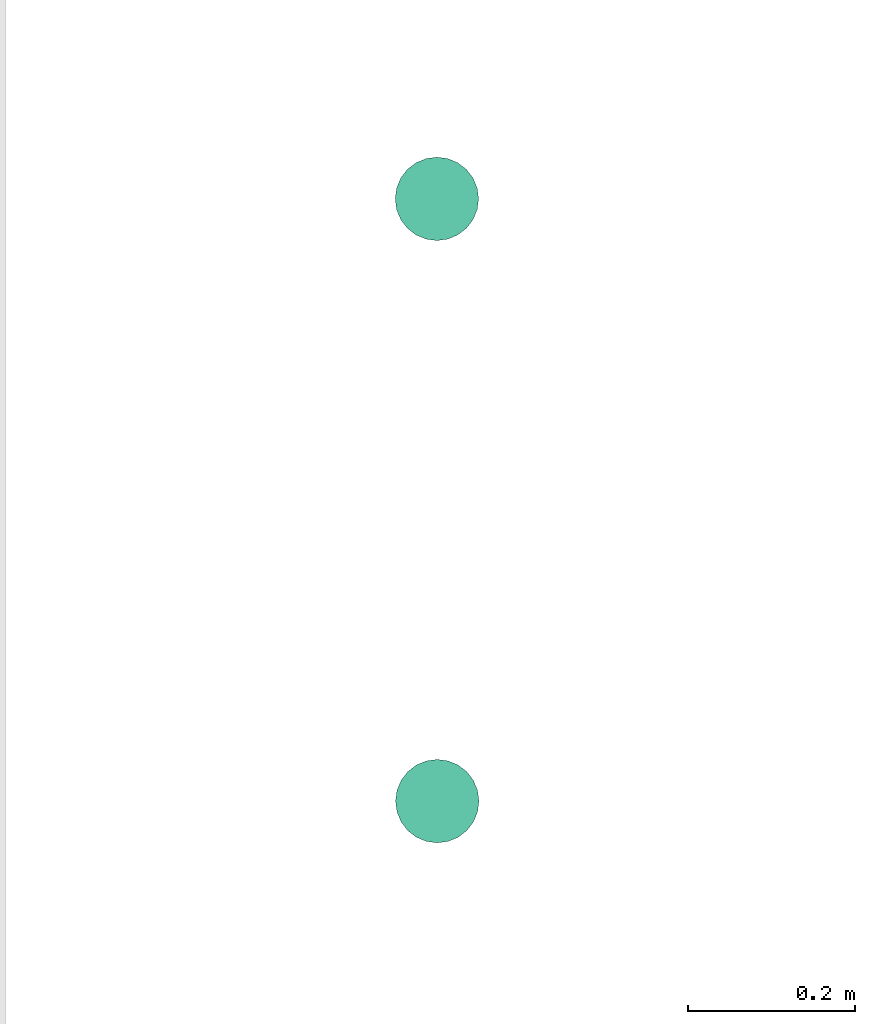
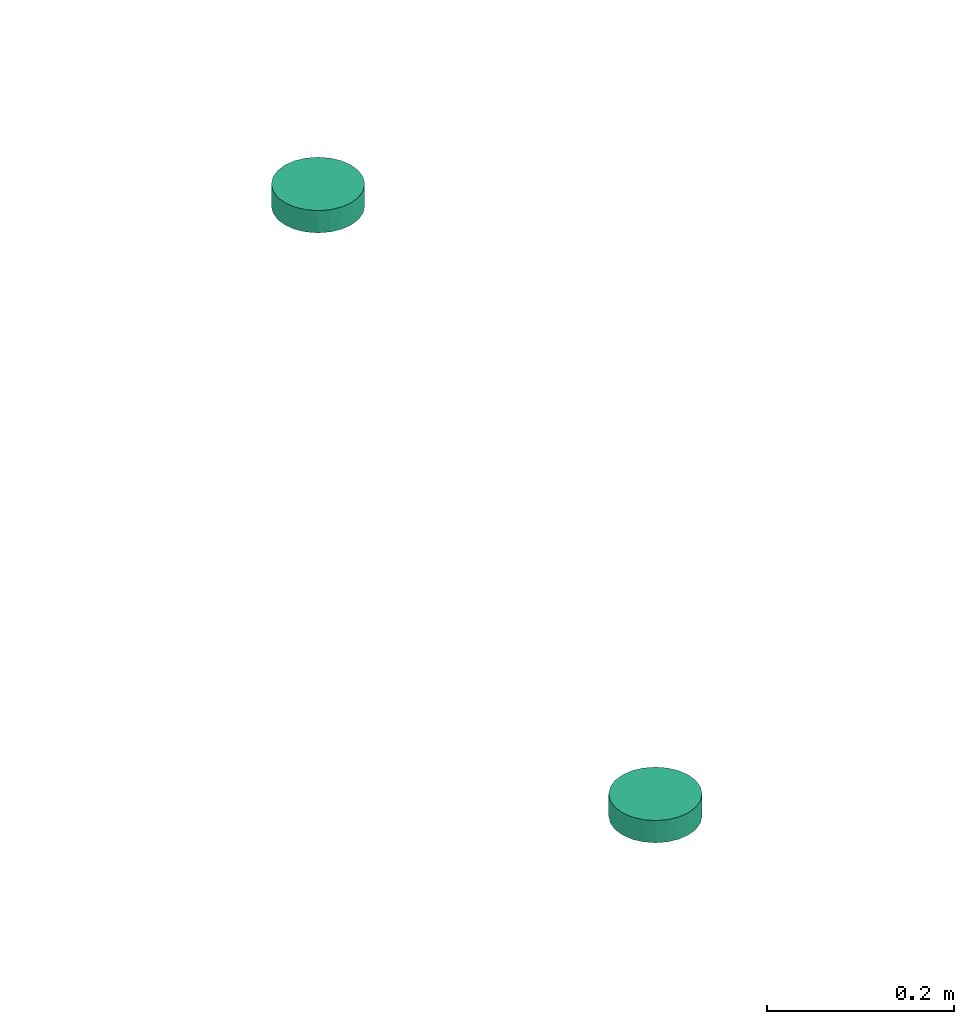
# One storey, part 10 of 51: 2 distribution control elements.
"""IFC2X3 building model written with IfcOpenShell, lengths in millimetres."""

from ifc_helpers import new_model, entity, si_unit, converted_unit, derived_unit, direction, frame, origin_with_axes, place, context, subcontext, project, spatial, open_shell, surface_model, source, transform, mapped, type_object, element, save


model = new_model("IFC2X3")

# Units and contexts
model_context = context("Model", 3, precision=0.01, world=frame((0.0, 4.29681676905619e-09, 0.0)), true_north=direction((4.01073788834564e-13, 1.0)))
plan_context = context("Plan", 3, precision=0.01, world=frame((0.0, 4.29681676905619e-09, 0.0)), true_north=direction((4.01073788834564e-13, 1.0)))
body_context = subcontext(model_context, "Body", "Model", "MODEL_VIEW")
ifc_project = project(units=[converted_unit("PLANEANGLEUNIT", "DEGREE", entity("IfcPositiveLengthMeasure", 0.0174532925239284), si_unit("PLANEANGLEUNIT", "RADIAN"), dimensions=[0, 0, 0, 0, 0, 0, 0]), si_unit("AREAUNIT", "SQUARE_METRE"), si_unit("LENGTHUNIT", "METRE", prefix="MILLI"), si_unit("MASSUNIT", "GRAM", prefix="KILO"), si_unit("POWERUNIT", "WATT"), si_unit("PRESSUREUNIT", "PASCAL"), si_unit("FORCEUNIT", "NEWTON", prefix="KILO"), si_unit("ELECTRICVOLTAGEUNIT", "VOLT"), si_unit("ELECTRICCURRENTUNIT", "AMPERE"), si_unit("THERMODYNAMICTEMPERATUREUNIT", "DEGREE_CELSIUS"), si_unit("TIMEUNIT", "SECOND"), si_unit("VOLUMEUNIT", "CUBIC_METRE"), derived_unit("LINEARVELOCITYUNIT", [(si_unit("LENGTHUNIT", "METRE"), 1), (si_unit("TIMEUNIT", "SECOND"), -1)]), derived_unit("VOLUMETRICFLOWRATEUNIT", [(si_unit("VOLUMEUNIT", "CUBIC_METRE"), 1), (si_unit("TIMEUNIT", "SECOND"), -1)]), derived_unit("THERMALTRANSMITTANCEUNIT", [(si_unit("POWERUNIT", "WATT"), 1), (si_unit("THERMODYNAMICTEMPERATUREUNIT", "KELVIN"), -1), (si_unit("AREAUNIT", "SQUARE_METRE"), -1)]), derived_unit("SOUNDPRESSUREUNIT", [(si_unit("PRESSUREUNIT", "PASCAL"), 1)])], contexts=[model_context, plan_context])

# Site, building, storey
site_placement = place(None, frame((0.0, -4.29681676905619e-09, 0.0), z_axis=(0.0, 0.0, 1.0), x_axis=(1.0, 0.0, 0.0)))
site = spatial("IfcSite", under=ifc_project, at=site_placement, Name="ENGM", CompositionType="ELEMENT")
building_placement = place(site_placement, frame((0.0, 4.29681676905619e-09, 0.0), z_axis=(0.0, 0.0, 1.0), x_axis=(1.0, 0.0, 0.0)))
building = spatial("IfcBuilding", under=site, at=building_placement, Name="TI", CompositionType="ELEMENT")
storey_placement = place(building_placement, frame((0.0, 0.0, 210900.0), z_axis=(0.0, 0.0, 1.0), x_axis=(1.0, 0.0, 0.0)))
storey = spatial("IfcBuildingStorey", under=building, at=storey_placement, Name="Nivå F", CompositionType="ELEMENT", Elevation=210900.0)

# Distribution control elements
alarm_type_1 = type_object("IfcAlarmType", Name="Brannalarm Røykdetektor", PredefinedType="NOTDEFINED")
shared_shape = source(origin_with_axes(), body_context, "Body", "SurfaceModel", [
    surface_model("IfcShellBasedSurfaceModel", [(-25.0, 43.30127, -28.9), (-35.35534, 35.35534, -28.9), (-18.0, 31.17691, -28.9), (-25.45584, 25.45584, -28.9), (-9.31749, 34.77333, -28.9), (-12.94095, 48.29629, -28.9), (0.0, 36.0, -28.9), (0.0, 50.0, -28.9), (-34.77333, 9.31749, -28.9), (-43.30127, 25.0, -28.9), (-48.29629, 12.94095, -28.9), (-36.0, 0.0, -28.9), (-50.0, 0.0, -28.9), (-31.17691, 18.0, -28.9), (9.31749, 34.77333, -28.9), (12.94095, 48.29629, -28.9), (18.0, 31.17691, -28.9), (35.35534, 35.35534, -28.9), (25.0, 43.30127, -28.9), (25.45584, 25.45584, -28.9), (31.17691, 18.0, -28.9), (34.77333, 9.31749, -28.9), (43.30127, 25.0, -28.9), (48.29629, 12.94095, -28.9), (36.0, 0.0, -28.9), (50.0, 0.0, -28.9), (-34.77333, -9.31749, -28.9), (-48.29629, -12.94095, -28.9), (-31.17691, -18.0, -28.9), (-43.30127, -25.0, -28.9), (-25.45584, -25.45584, -28.9), (-35.35534, -35.35534, -28.9), (-18.0, -31.17691, -28.9), (-25.0, -43.30127, -28.9), (-9.31749, -34.77333, -28.9), (-12.94095, -48.29629, -28.9), (0.0, -36.0, -28.9), (0.0, -50.0, -28.9), (43.30127, -25.0, -28.9), (31.17691, -18.0, -28.9), (35.35534, -35.35534, -28.9), (34.77333, -9.31749, -28.9), (48.29629, -12.94095, -28.9), (25.45584, -25.45584, -28.9), (9.31749, -34.77333, -28.9), (12.94095, -48.29629, -28.9), (18.0, -31.17691, -28.9), (25.0, -43.30127, -28.9), (-25.0, -43.30127, -29.1), (-35.35534, -35.35534, -29.1), (-18.0, -31.17691, -29.1), (-25.45584, -25.45584, -29.1), (-9.31749, -34.77333, -29.1), (-12.94095, -48.29629, -29.1), (0.0, -36.0, -29.1), (0.0, -50.0, -29.1), (-34.77333, -9.31749, -29.1), (-43.30127, -25.0, -29.1), (-48.29629, -12.94095, -29.1), (-36.0, 0.0, -29.1), (-50.0, 0.0, -29.1), (-31.17691, -18.0, -29.1), (9.31749, -34.77333, -29.1), (12.94095, -48.29629, -29.1), (18.0, -31.17691, -29.1), (35.35534, -35.35534, -29.1), (25.0, -43.30127, -29.1), (25.45584, -25.45584, -29.1), (31.17691, -18.0, -29.1), (34.77333, -9.31749, -29.1), (43.30127, -25.0, -29.1), (48.29629, -12.94095, -29.1), (36.0, 0.0, -29.1), (50.0, 0.0, -29.1), (-34.77333, 9.31749, -29.1), (-48.29629, 12.94095, -29.1), (-31.17691, 18.0, -29.1), (-43.30127, 25.0, -29.1), (-25.45584, 25.45584, -29.1), (-35.35534, 35.35534, -29.1), (-18.0, 31.17691, -29.1), (-25.0, 43.30127, -29.1), (-9.31749, 34.77333, -29.1), (-12.94095, 48.29629, -29.1), (0.0, 36.0, -29.1), (0.0, 50.0, -29.1), (43.30127, 25.0, -29.1), (31.17691, 18.0, -29.1), (35.35534, 35.35534, -29.1), (34.77333, 9.31749, -29.1), (48.29629, 12.94095, -29.1), (25.45584, 25.45584, -29.1), (9.31749, 34.77333, -29.1), (12.94095, 48.29629, -29.1), (18.0, 31.17691, -29.1), (25.0, 43.30127, -29.1), (6.47048, -24.14815, -44.9), (12.5, -21.65064, -44.9), (17.67767, -17.67767, -44.9), (24.14815, -6.47048, -44.9), (-24.14815, -6.47048, -44.9), (21.65064, -12.5, -44.9), (-21.65064, 12.5, -44.9), (0.0, -25.0, -44.9), (-12.5, -21.65064, -44.9), (-6.47048, -24.14815, -44.9), (-17.67767, -17.67767, -44.9), (-21.65064, -12.5, -44.9), (25.0, 0.0, -44.9), (24.14815, 6.47048, -44.9), (21.65064, 12.5, -44.9), (17.67767, 17.67767, -44.9), (12.5, 21.65064, -44.9), (6.47048, 24.14815, -44.9), (0.0, 25.0, -44.9), (-25.0, 0.0, -44.9), (-24.14815, 6.47048, -44.9), (-12.5, 21.65064, -44.9), (-17.67767, 17.67767, -44.9), (-6.47048, 24.14815, -44.9), (0.0, 25.0, -45.1), (6.47048, 24.14815, -45.1), (12.5, 21.65064, -45.1), (-21.65064, 12.5, -45.1), (17.67767, 17.67767, -45.1), (21.65064, 12.5, -45.1), (24.14815, 6.47048, -45.1), (-12.5, 21.65064, -45.1), (-17.67767, 17.67767, -45.1), (-6.47048, 24.14815, -45.1), (-25.0, 0.0, -45.1), (-24.14815, 6.47048, -45.1), (-24.14815, -6.47048, -45.1), (24.14815, -6.47048, -45.1), (6.47048, -24.14815, -45.1), (21.65064, -12.5, -45.1), (17.67767, -17.67767, -45.1), (12.5, -21.65064, -45.1), (-12.5, -21.65064, -45.1), (-17.67767, -17.67767, -45.1), (-21.65064, -12.5, -45.1), (0.0, -25.0, -45.1), (-6.47048, -24.14815, -45.1), (25.0, 0.0, -45.1), (-1.46739, 34.60682, -29.0), (0.0, 34.8, -29.0), (0.0, 35.0, -29.0), (-34.60682, 1.46739, -29.0), (-35.0, 0.0, -29.0), (-34.8, 0.0, -29.0), (-17.5, 30.31089, -29.0), (-18.5742, 29.23669, -29.0), (-17.4, 30.13768, -29.0), (-24.60732, -24.60732, -29.0), (-18.5742, -29.23669, -29.0), (-29.23669, -18.5742, -29.0), (34.8, 0.0, -29.0), (34.60682, -1.46739, -29.0), (35.0, 0.0, -29.0), (17.4, 30.13768, -29.0), (17.5, 30.31089, -29.0), (16.03261, 30.70407, -29.0), (30.13768, 17.4, -29.0), (30.31089, 17.5, -29.0), (29.23669, 18.5742, -29.0), (34.60682, 1.46739, -29.0), (33.61422, -9.0069, -29.0), (30.70407, -16.03261, -29.0), (-33.61422, -9.0069, -29.0), (-30.70407, -16.03261, -29.0), (-34.60682, -1.46739, -29.0), (-30.13768, -17.4, -29.0), (-30.31089, -17.5, -29.0), (-17.5, -30.31089, -29.0), (-17.4, -30.13768, -29.0), (-1.46739, -34.60682, -29.0), (0.0, -35.0, -29.0), (0.0, -34.8, -29.0), (-16.03261, -30.70407, -29.0), (-9.0069, -33.61422, -29.0), (1.46739, -34.60682, -29.0), (30.13768, -17.4, -29.0), (29.23669, -18.5742, -29.0), (30.31089, -17.5, -29.0), (24.60732, -24.60732, -29.0), (18.5742, -29.23669, -29.0), (9.0069, -33.61422, -29.0), (16.03261, -30.70407, -29.0), (-30.13768, 17.4, -29.0), (-30.31089, 17.5, -29.0), (-30.70407, 16.03261, -29.0), (17.4, -30.13768, -29.0), (17.5, -30.31089, -29.0), (-33.61422, 9.0069, -29.0), (-29.23669, 18.5742, -29.0), (-24.60732, 24.60732, -29.0), (-16.03261, 30.70407, -29.0), (-9.0069, 33.61422, -29.0), (1.46739, 34.60682, -29.0), (9.0069, 33.61422, -29.0), (18.5742, 29.23669, -29.0), (24.60732, 24.60732, -29.0), (30.70407, 16.03261, -29.0), (33.61422, 9.0069, -29.0), (23.00389, 18.55381, -38.25), (14.9, 25.80756, -38.25), (21.07178, 21.07178, -38.25), (29.66376, 1.03484, -38.25), (30.0, 0.0, -38.25), (29.8, 0.0, -38.25), (24.27051, 17.63356, -38.25), (24.68215, 16.36666, -38.25), (10.52665, 27.61906, -38.25), (28.78459, 7.71281, -38.25), (-10.52665, 27.61906, -38.25), (-23.00389, 18.55381, -38.25), (-14.9, 25.80756, -38.25), (8.32335, 28.5317, -38.25), (0.0, 29.8, -38.25), (7.71281, 28.78459, -38.25), (-8.32335, 28.5317, -38.25), (-24.68215, 16.36666, -38.25), (-28.78459, 7.71281, -38.25), (-25.80756, 14.9, -38.25), (-9.27051, 28.5317, -38.25), (-29.66376, 1.03484, -38.25), (-29.8, 0.0, -38.25), (-30.0, 0.0, -38.25), (-28.78459, -7.71281, -38.25), (-24.68215, -16.36666, -38.25), (-25.80756, -14.9, -38.25), (29.66376, -1.03484, -38.25), (-7.71281, 28.78459, -38.25), (25.80756, 14.9, -38.25), (14.9, -25.80756, -38.25), (10.52665, -27.61906, -38.25), (23.00389, -18.55381, -38.25), (28.78459, -7.71281, -38.25), (24.68215, -16.36666, -38.25), (0.0, -29.8, -38.25), (-7.71281, -28.78459, -38.25), (-8.32335, -28.5317, -38.25), (8.32335, -28.5317, -38.25), (9.27051, 28.5317, -38.25), (-29.66376, -1.03484, -38.25), (21.07178, -21.07178, -38.25), (-23.00389, -18.55381, -38.25), (-24.27051, -17.63356, -38.25), (-9.27051, -28.5317, -38.25), (-10.52665, -27.61906, -38.25), (-21.07178, -21.07178, -38.25), (-14.9, -25.80756, -38.25), (9.27051, -28.5317, -38.25), (7.71281, -28.78459, -38.25), (24.27051, -17.63356, -38.25), (25.80756, -14.9, -38.25), (-21.07178, 21.07178, -38.25), (-24.27051, 17.63356, -38.25), (33.28589, -6.39713, -29.0), (27.13526, -8.81678, -38.25), (-16.77051, -23.08263, -38.25), (-23.90544, -23.90544, -29.0), (-27.13526, -8.81678, -38.25), (-33.28589, -6.39713, -29.0), (16.77051, -23.08263, -38.25), (8.75, -32.65544, -29.0), (0.0, -28.5317, -38.25), (23.90544, -23.90544, -29.0), (-8.75, -32.65544, -29.0), (-33.28589, 6.39713, -29.0), (-27.13526, 8.81678, -38.25), (16.77051, 23.08263, -38.25), (23.90544, 23.90544, -29.0), (27.13526, 8.81678, -38.25), (33.28589, 6.39713, -29.0), (-16.77051, 23.08263, -38.25), (-8.75, 32.65544, -29.0), (0.0, 28.5317, -38.25), (-23.90544, 23.90544, -29.0), (8.75, 32.65544, -29.0), (12.4, 21.47743, -45.0), (17.53625, 17.53625, -45.0), (19.07577, 15.5299, -45.0), (20.22543, 14.69463, -45.0), (20.59905, 13.54472, -45.0), (24.66376, 1.03484, -45.0), (25.0, 0.0, -45.0), (24.8, 0.0, -45.0), (8.88673, 22.93267, -45.0), (23.95496, 6.41871, -45.0), (-8.88673, 22.93267, -45.0), (-19.07577, 15.5299, -45.0), (-12.4, 21.47743, -45.0), (6.84976, 23.77641, -45.0), (0.0, 24.8, -45.0), (6.41871, 23.95496, -45.0), (-7.72542, 23.77641, -45.0), (-6.84976, 23.77641, -45.0), (-21.47743, 12.4, -45.0), (-20.59905, 13.54472, -45.0), (-23.95496, 6.41871, -45.0), (-25.0, 0.0, -45.0), (-24.66376, 1.03484, -45.0), (-24.8, 0.0, -45.0), (-23.95496, -6.41871, -45.0), (-20.59905, -13.54472, -45.0), (-21.47743, -12.4, -45.0), (-6.41871, 23.95496, -45.0), (24.66376, -1.03484, -45.0), (21.47743, 12.4, -45.0), (12.4, -21.47743, -45.0), (8.88673, -22.93267, -45.0), (19.07577, -15.5299, -45.0), (23.95496, -6.41871, -45.0), (20.59905, -13.54472, -45.0), (0.0, -24.8, -45.0), (-6.41871, -23.95496, -45.0), (-6.84976, -23.77641, -45.0), (7.72542, -23.77641, -45.0), (6.84976, -23.77641, -45.0), (7.72542, 23.77641, -45.0), (-24.66376, -1.03484, -45.0), (17.53625, -17.53625, -45.0), (-20.22543, -14.69463, -45.0), (-19.07577, -15.5299, -45.0), (-8.88673, -22.93267, -45.0), (-7.72542, -23.77641, -45.0), (-17.53625, -17.53625, -45.0), (-12.4, -21.47743, -45.0), (6.41871, -23.95496, -45.0), (20.22543, -14.69463, -45.0), (21.47743, -12.4, -45.0), (-17.53625, 17.53625, -45.0), (-20.22543, 14.69463, -45.0), (-22.61271, -7.34732, -45.0), (-13.97542, -19.23552, -45.0), (0.0, -23.77641, -45.0), (21.83768, -9.73262, -45.0), (13.97542, -19.23552, -45.0), (23.41884, -4.86631, -45.0), (22.61271, 7.34732, -45.0), (13.97542, 19.23552, -45.0), (0.0, 23.77641, -45.0), (-21.83768, 9.73262, -45.0), (-13.97542, 19.23552, -45.0), (-23.41884, 4.86631, -45.0), (12.94095, -48.29629, 0.0), (25.0, -43.30127, 0.0), (35.35534, -35.35534, 0.0), (48.29629, -12.94095, 0.0), (-48.29629, -12.94095, 0.0), (43.30127, -25.0, 0.0), (-43.30127, 25.0, 0.0), (0.0, -50.0, 0.0), (-25.0, -43.30127, 0.0), (-12.94095, -48.29629, 0.0), (-35.35534, -35.35534, 0.0), (-43.30127, -25.0, 0.0), (50.0, 0.0, 0.0), (48.29629, 12.94095, 0.0), (43.30127, 25.0, 0.0), (35.35534, 35.35534, 0.0), (25.0, 43.30127, 0.0), (12.94095, 48.29629, 0.0), (0.0, 50.0, 0.0), (-50.0, 0.0, 0.0), (-48.29629, 12.94095, 0.0), (-25.0, 43.30127, 0.0), (-35.35534, 35.35534, 0.0), (-12.94095, 48.29629, 0.0), (0.0, 50.0, -29.0), (12.94095, 48.29629, -29.0), (25.0, 43.30127, -29.0), (-43.30127, 25.0, -29.0), (35.35534, 35.35534, -29.0), (43.30127, 25.0, -29.0), (48.29629, 12.94095, -29.0), (-25.0, 43.30127, -29.0), (-35.35534, 35.35534, -29.0), (-12.94095, 48.29629, -29.0), (-50.0, 0.0, -29.0), (-48.29629, 12.94095, -29.0), (-48.29629, -12.94095, -29.0), (48.29629, -12.94095, -29.0), (12.94095, -48.29629, -29.0), (43.30127, -25.0, -29.0), (35.35534, -35.35534, -29.0), (25.0, -43.30127, -29.0), (-25.0, -43.30127, -29.0), (-35.35534, -35.35534, -29.0), (-43.30127, -25.0, -29.0), (0.0, -50.0, -29.0), (-12.94095, -48.29629, -29.0), (50.0, 0.0, -29.0)], [open_shell([[[0, 1, 2]], [[2, 1, 3]], [[0, 2, 4]], [[5, 4, 6]], [[4, 5, 0]], [[5, 6, 7]], [[8, 9, 10]], [[11, 10, 12]], [[8, 10, 11]], [[13, 3, 9]], [[8, 13, 9]], [[9, 3, 1]], [[7, 14, 15]], [[14, 7, 6]], [[15, 14, 16]], [[17, 18, 19]], [[16, 18, 15]], [[19, 18, 16]], [[20, 21, 22]], [[20, 22, 17]], [[21, 23, 22]], [[23, 21, 24]], [[23, 24, 25]], [[20, 17, 19]], [[26, 12, 27]], [[28, 27, 29]], [[28, 26, 27]], [[30, 28, 29]], [[29, 31, 30]], [[32, 31, 33]], [[31, 32, 30]], [[32, 33, 34]], [[34, 35, 36]], [[35, 34, 33]], [[36, 35, 37]], [[38, 39, 40]], [[41, 39, 42]], [[41, 42, 25]], [[42, 39, 38]], [[39, 43, 40]], [[25, 24, 41]], [[44, 37, 45]], [[37, 44, 36]], [[44, 45, 46]], [[47, 40, 43]], [[47, 46, 45]], [[47, 43, 46]], [[26, 11, 12]], [[48, 49, 50]], [[50, 49, 51]], [[48, 50, 52]], [[53, 52, 54]], [[52, 53, 48]], [[53, 54, 55]], [[56, 57, 58]], [[59, 58, 60]], [[56, 58, 59]], [[61, 51, 57]], [[56, 61, 57]], [[57, 51, 49]], [[55, 62, 63]], [[62, 55, 54]], [[63, 62, 64]], [[65, 66, 67]], [[64, 66, 63]], [[67, 66, 64]], [[68, 69, 70]], [[68, 70, 65]], [[69, 71, 70]], [[71, 69, 72]], [[71, 72, 73]], [[68, 65, 67]], [[74, 60, 75]], [[76, 75, 77]], [[76, 74, 75]], [[78, 76, 77]], [[77, 79, 78]], [[80, 79, 81]], [[79, 80, 78]], [[80, 81, 82]], [[82, 83, 84]], [[83, 82, 81]], [[84, 83, 85]], [[86, 87, 88]], [[89, 87, 90]], [[89, 90, 73]], [[90, 87, 86]], [[87, 91, 88]], [[73, 72, 89]], [[92, 85, 93]], [[85, 92, 84]], [[92, 93, 94]], [[95, 88, 91]], [[95, 94, 93]], [[95, 91, 94]], [[74, 59, 60]], [[11, 59, 8]], [[8, 74, 13]], [[2, 3, 78]], [[76, 3, 13]], [[4, 2, 80]], [[74, 76, 13]], [[8, 59, 74]], [[84, 6, 82]], [[4, 80, 82]], [[80, 2, 78]], [[3, 76, 78]], [[4, 82, 6]], [[14, 92, 16]], [[16, 94, 19]], [[21, 20, 87]], [[91, 20, 19]], [[24, 21, 89]], [[92, 94, 16]], [[14, 84, 92]], [[21, 87, 89]], [[87, 20, 91]], [[19, 94, 91]], [[24, 89, 72]], [[6, 84, 14]], [[24, 72, 41]], [[41, 69, 39]], [[46, 43, 67]], [[68, 43, 39]], [[44, 46, 64]], [[69, 68, 39]], [[41, 72, 69]], [[54, 36, 62]], [[44, 64, 62]], [[64, 46, 67]], [[43, 68, 67]], [[44, 62, 36]], [[34, 52, 32]], [[32, 50, 30]], [[26, 28, 61]], [[51, 28, 30]], [[11, 26, 56]], [[52, 50, 32]], [[34, 54, 52]], [[26, 61, 56]], [[61, 28, 51]], [[30, 50, 51]], [[11, 56, 59]], [[36, 54, 34]], [[58, 27, 60]], [[57, 29, 58]], [[33, 49, 48]], [[57, 49, 31]], [[35, 48, 53]], [[58, 29, 27]], [[27, 12, 60]], [[35, 33, 48]], [[31, 49, 33]], [[31, 29, 57]], [[37, 35, 53]], [[53, 55, 37]], [[63, 45, 55]], [[66, 47, 63]], [[38, 65, 70]], [[66, 65, 40]], [[42, 70, 71]], [[66, 40, 47]], [[47, 45, 63]], [[25, 42, 71]], [[38, 70, 42]], [[38, 40, 65]], [[73, 25, 71]], [[55, 45, 37]], [[90, 23, 73]], [[86, 22, 90]], [[18, 88, 95]], [[86, 88, 17]], [[15, 95, 93]], [[90, 22, 23]], [[23, 25, 73]], [[15, 18, 95]], [[17, 88, 18]], [[17, 22, 86]], [[7, 15, 93]], [[93, 85, 7]], [[83, 5, 85]], [[81, 0, 83]], [[9, 79, 77]], [[81, 79, 1]], [[10, 77, 75]], [[81, 1, 0]], [[0, 5, 83]], [[12, 10, 75]], [[9, 77, 10]], [[9, 1, 79]], [[60, 12, 75]], [[85, 5, 7]], [[96, 97, 98]], [[96, 98, 99]], [[96, 99, 100]], [[99, 98, 101]], [[102, 100, 99]], [[103, 104, 105]], [[103, 96, 104]], [[106, 100, 107]], [[106, 104, 96]], [[100, 106, 96]], [[99, 108, 102]], [[109, 110, 111]], [[109, 111, 112]], [[112, 113, 114]], [[109, 112, 102]], [[102, 112, 114]], [[115, 102, 116]], [[100, 102, 115]], [[102, 117, 118]], [[117, 102, 119]], [[114, 119, 102]], [[102, 108, 109]], [[120, 121, 122]], [[123, 120, 122]], [[124, 125, 126]], [[124, 126, 122]], [[123, 122, 126]], [[127, 123, 128]], [[123, 127, 129]], [[123, 130, 131]], [[123, 129, 120]], [[123, 132, 130]], [[123, 126, 133]], [[132, 123, 133]], [[134, 133, 135]], [[136, 137, 134]], [[136, 134, 135]], [[138, 133, 134]], [[132, 139, 140]], [[132, 133, 139]], [[138, 141, 142]], [[139, 133, 138]], [[134, 141, 138]], [[133, 126, 143]], [[132, 100, 130]], [[140, 107, 132]], [[104, 139, 138]], [[140, 139, 106]], [[105, 138, 142]], [[132, 107, 100]], [[100, 115, 130]], [[105, 104, 138]], [[106, 139, 104]], [[106, 107, 140]], [[103, 105, 142]], [[142, 141, 103]], [[134, 96, 141]], [[137, 97, 134]], [[101, 136, 135]], [[137, 136, 98]], [[99, 135, 133]], [[137, 98, 97]], [[97, 96, 134]], [[108, 99, 133]], [[101, 135, 99]], [[101, 98, 136]], [[143, 108, 133]], [[141, 96, 103]], [[126, 109, 143]], [[125, 110, 126]], [[112, 124, 122]], [[125, 124, 111]], [[113, 122, 121]], [[126, 110, 109]], [[109, 108, 143]], [[113, 112, 122]], [[111, 124, 112]], [[111, 110, 125]], [[114, 113, 121]], [[121, 120, 114]], [[129, 119, 120]], [[127, 117, 129]], [[102, 128, 123]], [[127, 128, 118]], [[116, 123, 131]], [[127, 118, 117]], [[117, 119, 129]], [[115, 116, 131]], [[102, 123, 116]], [[102, 118, 128]], [[130, 115, 131]], [[120, 119, 114]], [[144, 145, 146]], [[147, 148, 149]], [[150, 151, 152]], [[153, 154, 155]], [[156, 157, 158]], [[159, 160, 161]], [[162, 163, 164]], [[156, 158, 165]], [[166, 157, 167]], [[168, 169, 170]], [[170, 149, 148]], [[171, 169, 172]], [[173, 174, 154]], [[175, 176, 177]], [[174, 173, 178]], [[155, 171, 172]], [[179, 175, 178]], [[180, 177, 176]], [[181, 182, 183]], [[181, 183, 167]], [[184, 182, 185]], [[186, 187, 180]], [[188, 189, 190]], [[191, 192, 185]], [[191, 187, 192]], [[193, 147, 190]], [[188, 194, 189]], [[195, 194, 151]], [[152, 196, 150]], [[197, 196, 144]], [[145, 198, 146]], [[199, 198, 161]], [[159, 200, 160]], [[201, 200, 164]], [[162, 202, 163]], [[203, 202, 165]], [[204, 205, 206]], [[207, 208, 209]], [[204, 210, 211]], [[205, 204, 212]], [[213, 207, 211]], [[214, 215, 216]], [[217, 218, 219]], [[218, 217, 220]], [[221, 222, 223]], [[220, 214, 224]], [[225, 226, 227]], [[228, 229, 230]], [[209, 208, 231]], [[218, 220, 232]], [[213, 211, 233]], [[234, 235, 236]], [[237, 238, 231]], [[239, 240, 241]], [[241, 242, 239]], [[243, 212, 217]], [[227, 226, 244]], [[234, 236, 245]], [[229, 246, 247]], [[241, 248, 249]], [[250, 246, 251]], [[228, 244, 229]], [[235, 252, 242]], [[239, 242, 253]], [[236, 238, 254]], [[238, 237, 255]], [[251, 246, 249]], [[216, 215, 256]], [[215, 221, 257]], [[222, 221, 225]], [[208, 158, 258]], [[183, 259, 258]], [[260, 261, 247]], [[172, 262, 247]], [[263, 227, 262]], [[192, 252, 264]], [[260, 248, 173]], [[261, 260, 173]], [[252, 265, 266]], [[227, 263, 148]], [[172, 263, 262]], [[258, 259, 208]], [[254, 267, 264]], [[268, 173, 248]], [[252, 192, 265]], [[192, 264, 267]], [[267, 254, 183]], [[259, 183, 254]], [[268, 266, 176]], [[265, 176, 266]], [[248, 266, 268]], [[172, 247, 261]], [[227, 148, 269]], [[189, 270, 269]], [[271, 272, 210]], [[163, 273, 210]], [[274, 208, 273]], [[150, 224, 275]], [[271, 243, 160]], [[272, 271, 160]], [[224, 276, 277]], [[208, 274, 158]], [[163, 274, 273]], [[269, 270, 227]], [[257, 278, 275]], [[279, 160, 243]], [[224, 150, 276]], [[150, 275, 278]], [[278, 257, 189]], [[270, 189, 257]], [[279, 277, 146]], [[276, 146, 277]], [[243, 277, 279]], [[163, 210, 272]], [[171, 230, 228]], [[168, 228, 226]], [[179, 240, 251]], [[174, 251, 250]], [[153, 250, 230]], [[168, 171, 228]], [[226, 149, 168]], [[251, 174, 179]], [[174, 250, 153]], [[230, 171, 153]], [[240, 179, 177]], [[177, 239, 240]], [[184, 245, 234]], [[191, 234, 253]], [[156, 209, 237]], [[166, 237, 255]], [[181, 255, 245]], [[239, 186, 253]], [[186, 191, 253]], [[177, 186, 239]], [[184, 181, 245]], [[191, 184, 234]], [[181, 166, 255]], [[166, 156, 237]], [[162, 233, 213]], [[203, 213, 209]], [[199, 219, 205]], [[159, 205, 206]], [[201, 206, 233]], [[203, 162, 213]], [[209, 156, 203]], [[205, 159, 199]], [[159, 206, 201]], [[233, 162, 201]], [[219, 199, 145]], [[145, 218, 219]], [[195, 256, 216]], [[152, 216, 232]], [[149, 226, 222]], [[193, 222, 223]], [[188, 223, 256]], [[218, 197, 232]], [[197, 152, 232]], [[145, 197, 218]], [[195, 188, 256]], [[152, 195, 216]], [[188, 193, 223]], [[193, 149, 222]], [[215, 216, 256]], [[221, 222, 225]], [[225, 227, 226]], [[257, 221, 215]], [[216, 215, 214]], [[212, 204, 205]], [[220, 218, 232]], [[218, 220, 217]], [[217, 212, 243]], [[233, 211, 213]], [[208, 207, 209]], [[237, 238, 255]], [[252, 235, 242]], [[218, 217, 219]], [[227, 244, 226]], [[222, 221, 223]], [[228, 229, 244]], [[239, 253, 242]], [[246, 251, 249]], [[249, 248, 241]], [[231, 238, 237]], [[208, 209, 231]], [[251, 246, 250]], [[254, 238, 236]], [[236, 234, 245]], [[214, 220, 224]], [[242, 241, 239]], [[239, 241, 240]], [[246, 229, 247]], [[230, 229, 228]], [[234, 236, 235]], [[205, 204, 206]], [[204, 211, 210]], [[213, 211, 207]], [[280, 281, 282]], [[282, 283, 284]], [[285, 286, 287]], [[280, 282, 288]], [[289, 285, 284]], [[290, 291, 292]], [[293, 294, 295]], [[290, 296, 297]], [[294, 293, 297]], [[298, 299, 300]], [[301, 302, 303]], [[304, 305, 306]], [[294, 297, 307]], [[308, 287, 286]], [[289, 284, 309]], [[310, 311, 312]], [[313, 314, 308]], [[315, 316, 317]], [[311, 318, 319]], [[293, 320, 288]], [[301, 303, 321]], [[310, 312, 322]], [[323, 305, 324]], [[325, 317, 326]], [[327, 324, 328]], [[304, 321, 305]], [[317, 319, 315]], [[315, 319, 329]], [[312, 314, 330]], [[331, 314, 313]], [[328, 324, 325]], [[292, 291, 332]], [[291, 299, 333]], [[300, 299, 302]], [[262, 301, 334]], [[334, 323, 247]], [[248, 335, 326]], [[301, 262, 227]], [[334, 247, 262]], [[260, 323, 335]], [[266, 248, 326]], [[336, 252, 266]], [[252, 336, 318]], [[323, 260, 247]], [[248, 260, 335]], [[254, 337, 259]], [[318, 264, 252]], [[338, 254, 264]], [[339, 286, 208]], [[264, 318, 338]], [[259, 339, 208]], [[338, 330, 254]], [[266, 326, 336]], [[259, 337, 339]], [[337, 254, 330]], [[273, 286, 340]], [[340, 283, 210]], [[243, 341, 320]], [[286, 273, 208]], [[340, 210, 273]], [[271, 283, 341]], [[277, 243, 320]], [[342, 224, 277]], [[224, 342, 296]], [[283, 271, 210]], [[243, 271, 341]], [[257, 343, 270]], [[296, 275, 224]], [[344, 257, 275]], [[345, 301, 227]], [[275, 296, 344]], [[270, 345, 227]], [[344, 333, 257]], [[277, 320, 342]], [[270, 343, 345]], [[343, 257, 333]], [[230, 306, 304]], [[228, 304, 303]], [[240, 316, 328]], [[251, 328, 327]], [[250, 327, 306]], [[228, 230, 304]], [[303, 226, 228]], [[328, 251, 240]], [[251, 327, 250]], [[306, 230, 250]], [[316, 240, 239]], [[239, 315, 316]], [[245, 322, 310]], [[234, 310, 329]], [[209, 287, 313]], [[237, 313, 331]], [[255, 331, 322]], [[315, 253, 329]], [[253, 234, 329]], [[239, 253, 315]], [[255, 322, 245]], [[234, 245, 310]], [[331, 255, 237]], [[237, 209, 313]], [[233, 309, 289]], [[213, 289, 287]], [[219, 295, 280]], [[205, 280, 281]], [[206, 281, 309]], [[213, 233, 289]], [[287, 209, 213]], [[280, 205, 219]], [[205, 281, 206]], [[309, 233, 206]], [[295, 219, 218]], [[218, 294, 295]], [[256, 332, 292]], [[216, 292, 307]], [[226, 303, 300]], [[222, 300, 298]], [[223, 298, 332]], [[294, 232, 307]], [[232, 216, 307]], [[218, 232, 294]], [[223, 332, 256]], [[216, 256, 292]], [[298, 223, 222]], [[222, 226, 300]], [[346, 347, 348]], [[346, 348, 349]], [[346, 349, 350]], [[349, 348, 351]], [[352, 350, 349]], [[353, 354, 355]], [[353, 346, 354]], [[356, 350, 357]], [[356, 354, 346]], [[350, 356, 346]], [[349, 358, 352]], [[359, 360, 361]], [[359, 361, 362]], [[362, 363, 364]], [[359, 362, 352]], [[352, 362, 364]], [[365, 352, 366]], [[350, 352, 365]], [[352, 367, 368]], [[367, 352, 369]], [[364, 369, 352]], [[352, 358, 359]], [[370, 371, 372]], [[373, 370, 372]], [[374, 375, 376]], [[374, 376, 372]], [[373, 372, 376]], [[377, 373, 378]], [[373, 377, 379]], [[373, 380, 381]], [[373, 379, 370]], [[373, 382, 380]], [[373, 376, 383]], [[382, 373, 383]], [[384, 383, 385]], [[386, 387, 384]], [[386, 384, 385]], [[388, 383, 384]], [[382, 389, 390]], [[382, 383, 389]], [[388, 391, 392]], [[389, 383, 388]], [[384, 391, 388]], [[383, 376, 393]], [[382, 350, 380]], [[390, 357, 382]], [[354, 389, 388]], [[390, 389, 356]], [[355, 388, 392]], [[382, 357, 350]], [[350, 365, 380]], [[355, 354, 388]], [[356, 389, 354]], [[356, 357, 390]], [[353, 355, 392]], [[392, 391, 353]], [[384, 346, 391]], [[387, 347, 384]], [[351, 386, 385]], [[387, 386, 348]], [[349, 385, 383]], [[387, 348, 347]], [[347, 346, 384]], [[358, 349, 383]], [[351, 385, 349]], [[351, 348, 386]], [[393, 358, 383]], [[391, 346, 353]], [[376, 359, 393]], [[375, 360, 376]], [[362, 374, 372]], [[375, 374, 361]], [[363, 372, 371]], [[376, 360, 359]], [[359, 358, 393]], [[363, 362, 372]], [[361, 374, 362]], [[361, 360, 375]], [[364, 363, 371]], [[371, 370, 364]], [[369, 370, 379]], [[367, 379, 377]], [[352, 373, 381]], [[366, 381, 380]], [[379, 367, 369]], [[367, 377, 378]], [[367, 378, 368]], [[368, 378, 352]], [[352, 378, 373]], [[352, 381, 366]], [[380, 365, 366]], [[370, 369, 364]]])]),
])
distribution_control_element_1_placement = place(storey_placement, frame((608154.43254, 696047.99532, 2440.0), z_axis=(0.0, 0.0, 1.0), x_axis=(1.0, 0.0, 0.0)))
element("IfcDistributionControlElement", 1, at=distribution_control_element_1_placement, inside=storey, type_object=alarm_type_1, Name="Brannalarm Røykdetektor", context=body_context, shape_type="MappedRepresentation", body=[
    mapped(shared_shape, transform((0.0, 0.0, 0.0), scale=1.0)),
])
alarm_type_2 = type_object("IfcAlarmType", Name="Standard", PredefinedType="NOTDEFINED")
distribution_control_element_2_placement = place(storey_placement, frame((608154.0, 696770.01144, 2800.0), z_axis=(0.0, 0.0, 1.0), x_axis=(1.0, 0.0, 0.0)))
element("IfcDistributionControlElement", 2, at=distribution_control_element_2_placement, inside=storey, type_object=alarm_type_2, Name="Standard", context=body_context, shape_type="MappedRepresentation", body=[
    mapped(shared_shape, transform((0.0, 0.0, 0.0), scale=1.0)),
])

save(model, "model.ifc")
